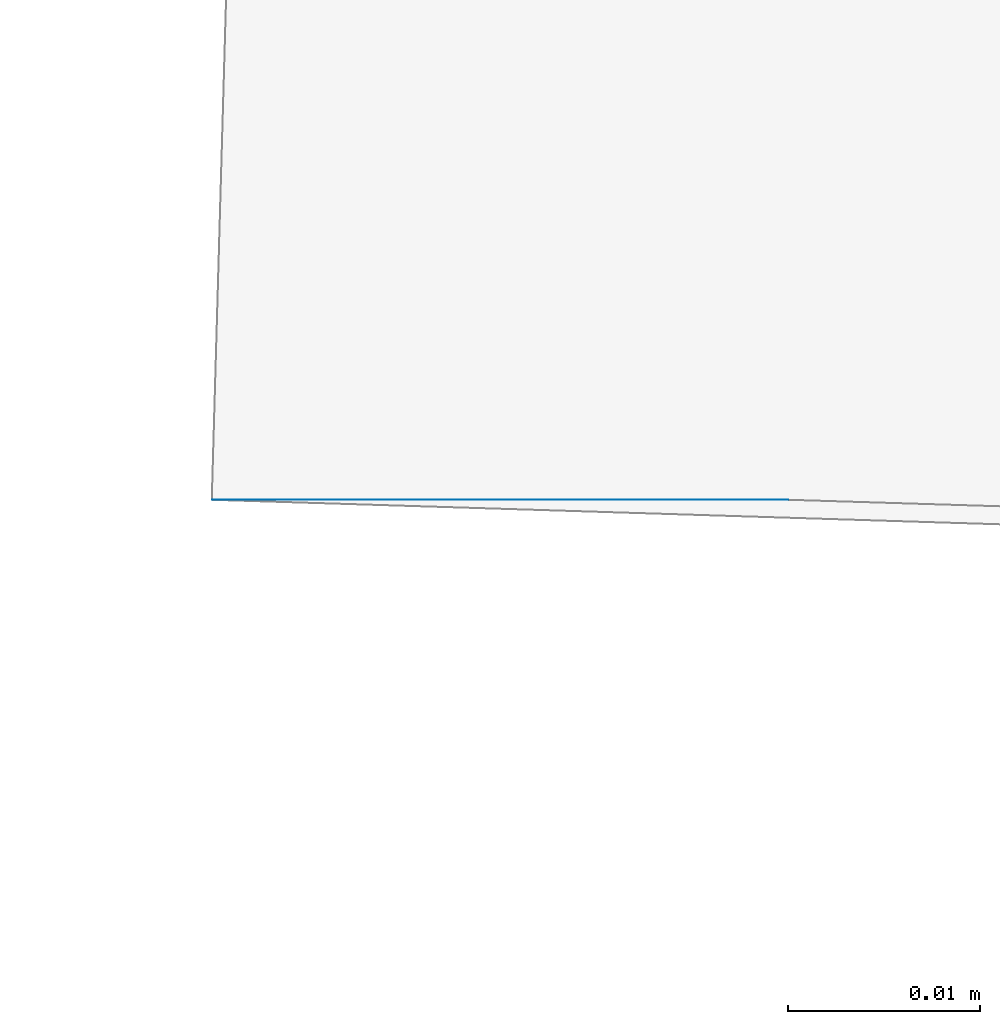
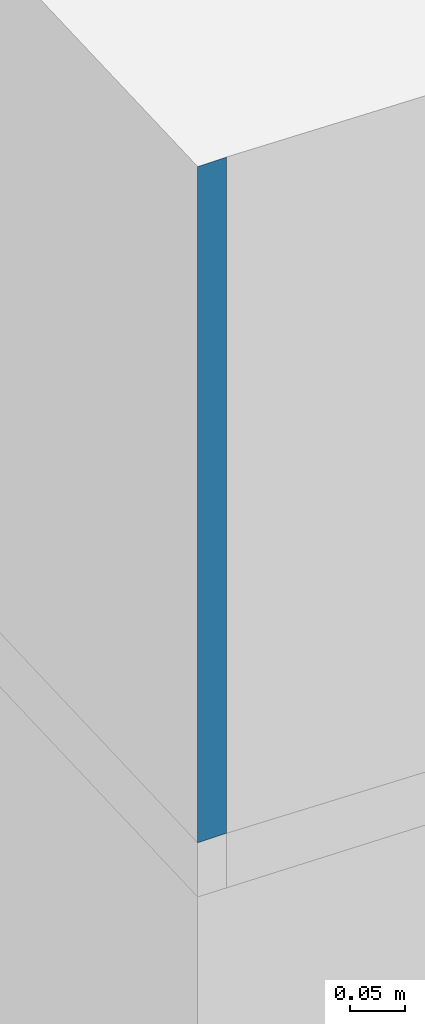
# Not in any storey, part 45 of 57: 2 walls.
"""IFC2X3 building model written with IfcOpenShell, lengths in metres."""

from ifc_helpers import new_model, entity, si_unit, converted_unit, frame, origin, place, context, subcontext, project, spatial, face_set, surface_model, element, save


model = new_model("IFC2X3")

# Units and contexts
model_context = context("Model", 3, precision=1e-05, world=origin())
body_context = subcontext(model_context, "Body", "Model", "MODEL_VIEW")
ifc_project = project(units=[converted_unit("PLANEANGLEUNIT", "DEGREE", entity("IfcRatioMeasure", 0.0174532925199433), si_unit("PLANEANGLEUNIT", "RADIAN"), dimensions=[0, 0, 0, 0, 0, 0, 0]), si_unit("AREAUNIT", "SQUARE_METRE"), si_unit("LENGTHUNIT", "METRE")], contexts=[model_context])

# Site, building
site_placement = place(None, origin())
site = spatial("IfcSite", under=ifc_project, at=site_placement, Name="_site", CompositionType="ELEMENT")
building_placement = place(site_placement, origin())
building = spatial("IfcBuilding", under=site, at=building_placement, Name="_building", CompositionType="ELEMENT")

# Walls
for number, where, name in (
    (1, (0.0, 0.0, 0.0), "Wall"),
    (2, (0.0, 0.0, 0.0), "Wall"),
):
    element("IfcWall", number, at=place(building_placement, frame(where)), inside=building, Name=name, context=body_context, shape_type="SurfaceModel", body=[
        surface_model("IfcFaceBasedSurfaceModel", [(111.93, 100.869, 216.89), (111.9, 100.869, 216.89), (111.9, 100.869, 217.64), (111.93, 100.869, 217.64)], [face_set([[[0, 1, 2, 3]]])]),
    ])

save(model, "model.ifc")
